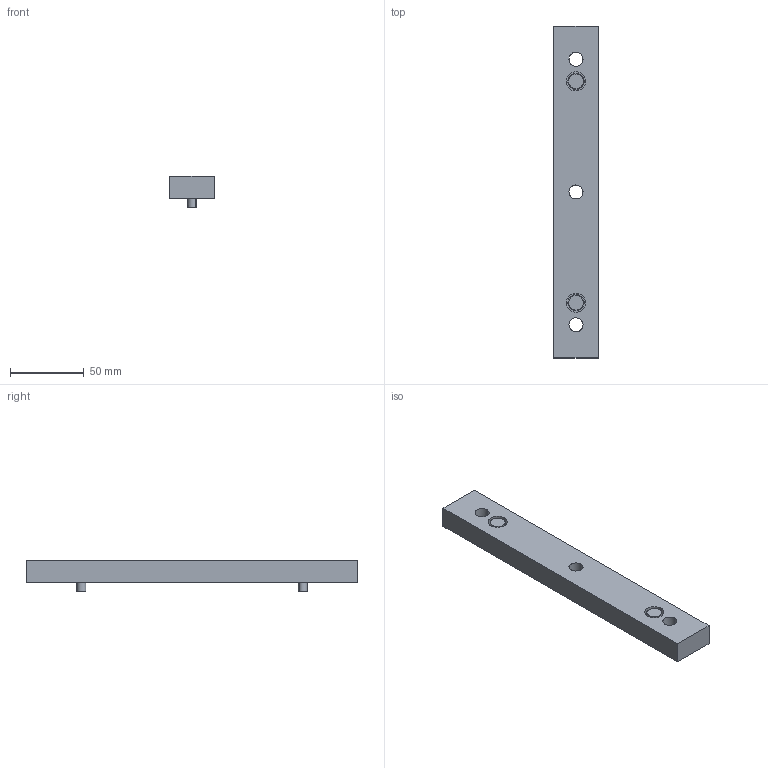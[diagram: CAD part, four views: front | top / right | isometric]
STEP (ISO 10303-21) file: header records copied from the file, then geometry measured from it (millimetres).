
FILE_DESCRIPTION(('STEP AP214'),'1');
FILE_NAME('EGT219_1702494_LEISTE_F_FLANSCHPLATTE_EGT056.CATPart.stp','2015-09-14T13:13:49',('3D-Tool'),(' '),'Spatial InterOp 3D',' ',' ');
FILE_SCHEMA(('automotive_design'));
Length unit declared in the file: millimetre
Products named in the file (3): EGT219_1702494_LEISTE_F_FLANSCHPLATTE_EGT056|5252087.1_Leiste fuer Aufnahmeadapter 90 Grad SW50|5252087.1_Leiste fuer Aufnahmeadapter 90 Grad SW50; EGT219_1702494_LEISTE_F_FLANSCHPLATTE_EGT056|Schraube_M6x15.1_Hauptkörper|Schraube_M6x15.1_Hauptkörper; EGT219_1702494_LEISTE_F_FLANSCHPLATTE_EGT056|Schraube_M6x15.2_Hauptkörper|Schraube_M6x15.2_Hauptkörper
Bounding box: 30 x 225 x 21.4 mm (x, y, z)
Volume: 97459.3 mm3; surface area: 24239.1 mm2
Topology: 3 solids, 3 shells, 48 faces, 132 edges, 96 vertices
Faces by surface type: cylinder 26, plane 16, cone 6
Entity records: 1965 total; most frequent: CARTESIAN_POINT 589, ORIENTED_EDGE 264, EDGE_CURVE 132, DIRECTION 104, VERTEX_POINT 96, EDGE_LOOP 64, STYLED_ITEM 51, PRESENTATION_STYLE_ASSIGNMENT 51
